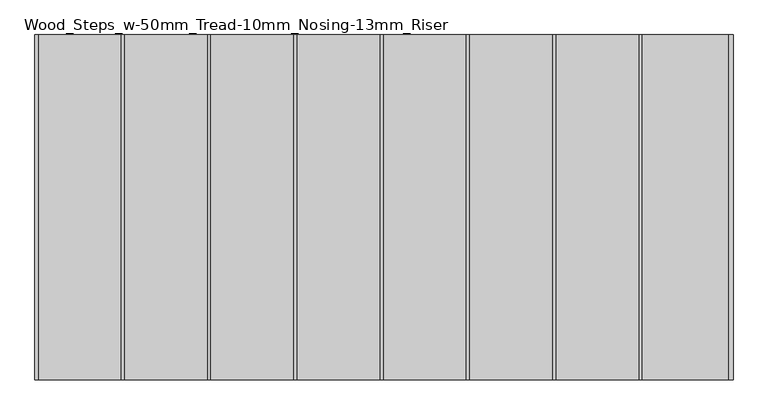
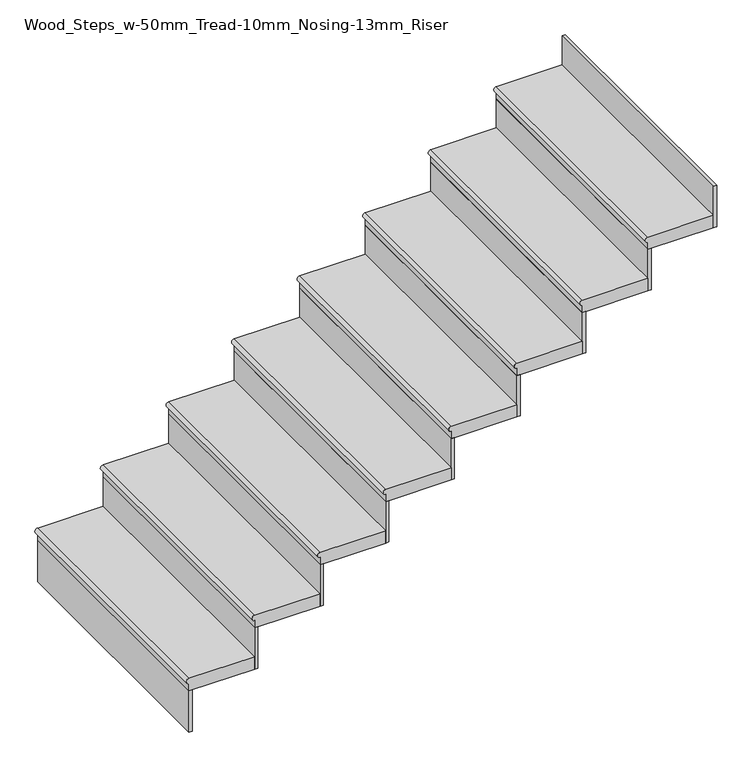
"""IFC4 building model written with IfcOpenShell, lengths in millimetres: stair flight geometry, Wood_Steps_w-50mm_Tread-10mm_Nosing-13mm_Riser."""

from ifc_helpers import new_model, si_unit, point, frame, frame_2d, origin, place, context, project, spatial, polyline, circle_curve, trimmed, segment, composite_curve, outline, extrude, source, transform, mapped, element, save


def wood_steps_w_50mm_tread_10mm_nosing_13mm_riser_24bd857b(model_context):
    return source(origin(), model_context, "Body", "SweptSolid", [
        extrude(outline(composite_curve([segment(polyline([(4466.6666667, -17065.9339353), (4466.6666667, -17315.9339353)]), True, "CONTINUOUS"), segment(trimmed(circle_curve(frame_2d((4456.6666667, -17315.9339353)), 10.0), [point((4466.6666667, -17315.9339353))], [point((4446.6666667, -17315.9339353))], False, "CARTESIAN"), True, "CONTINUOUS"), segment(polyline([(4446.6666667, -17315.9339353), (4416.6666667, -17315.9339353), (4416.6666667, -17065.9339353), (4466.6666667, -17065.9339353)]), True, "CONTINUOUS")], self_intersect=False)), frame((0.0, -1806.3199596, 0.0), z_axis=(0.0, 1.0, 0.0), x_axis=(0.0, 0.0, 1.0)), (0.0, 0.0, 1.0), 1000.0),
        extrude(outline(polyline([(-17303.4339353, -1806.3199596), (-17315.9339353, -1806.3199596), (-17315.9339353, -806.3199596), (-17303.4339353, -806.3199596), (-17303.4339353, -1806.3199596)])), frame((0.0, 0.0, 4250.0), z_axis=(0.0, 0.0, 1.0), x_axis=(1.0, 0.0, 0.0)), (0.0, 0.0, 1.0), 166.6666667),
        extrude(outline(polyline([(-17053.4339353, -1806.3199596), (-17065.9339353, -1806.3199596), (-17065.9339353, -806.3199596), (-17053.4339353, -806.3199596), (-17053.4339353, -1806.3199596)])), frame((0.0, 0.0, 4416.6666667), z_axis=(0.0, 0.0, 1.0), x_axis=(1.0, 0.0, 0.0)), (0.0, 0.0, 1.0), 166.6666667),
        extrude(outline(composite_curve([segment(polyline([(4633.3333333, -16815.9339353), (4633.3333333, -17065.9339353)]), True, "CONTINUOUS"), segment(trimmed(circle_curve(frame_2d((4623.3333333, -17065.9339353)), 10.0), [point((4633.3333333, -17065.9339353))], [point((4613.3333333, -17065.9339353))], False, "CARTESIAN"), True, "CONTINUOUS"), segment(polyline([(4613.3333333, -17065.9339353), (4583.3333333, -17065.9339353), (4583.3333333, -16815.9339353), (4633.3333333, -16815.9339353)]), True, "CONTINUOUS")], self_intersect=False)), frame((0.0, -1806.3199596, 0.0), z_axis=(0.0, 1.0, 0.0), x_axis=(0.0, 0.0, 1.0)), (0.0, 0.0, 1.0), 1000.0),
        extrude(outline(polyline([(-16803.4339353, -1806.3199596), (-16815.9339353, -1806.3199596), (-16815.9339353, -806.3199596), (-16803.4339353, -806.3199596), (-16803.4339353, -1806.3199596)])), frame((0.0, 0.0, 4583.3333333), z_axis=(0.0, 0.0, 1.0), x_axis=(1.0, 0.0, 0.0)), (0.0, 0.0, 1.0), 166.6666667),
        extrude(outline(composite_curve([segment(polyline([(4800.0, -16565.9339353), (4800.0, -16815.9339353)]), True, "CONTINUOUS"), segment(trimmed(circle_curve(frame_2d((4790.0, -16815.9339353)), 10.0), [point((4800.0, -16815.9339353))], [point((4780.0, -16815.9339353))], False, "CARTESIAN"), True, "CONTINUOUS"), segment(polyline([(4780.0, -16815.9339353), (4750.0, -16815.9339353), (4750.0, -16565.9339353), (4800.0, -16565.9339353)]), True, "CONTINUOUS")], self_intersect=False)), frame((0.0, -1806.3199596, 0.0), z_axis=(0.0, 1.0, 0.0), x_axis=(0.0, 0.0, 1.0)), (0.0, 0.0, 1.0), 1000.0),
        extrude(outline(polyline([(-16553.4339353, -1806.3199596), (-16565.9339353, -1806.3199596), (-16565.9339353, -806.3199596), (-16553.4339353, -806.3199596), (-16553.4339353, -1806.3199596)])), frame((0.0, 0.0, 4750.0), z_axis=(0.0, 0.0, 1.0), x_axis=(1.0, 0.0, 0.0)), (0.0, 0.0, 1.0), 166.6666667),
        extrude(outline(composite_curve([segment(polyline([(4966.6666667, -16315.9339353), (4966.6666667, -16565.9339353)]), True, "CONTINUOUS"), segment(trimmed(circle_curve(frame_2d((4956.6666667, -16565.9339353)), 10.0), [point((4966.6666667, -16565.9339353))], [point((4946.6666667, -16565.9339353))], False, "CARTESIAN"), True, "CONTINUOUS"), segment(polyline([(4946.6666667, -16565.9339353), (4916.6666667, -16565.9339353), (4916.6666667, -16315.9339353), (4966.6666667, -16315.9339353)]), True, "CONTINUOUS")], self_intersect=False)), frame((0.0, -1806.3199596, 0.0), z_axis=(0.0, 1.0, 0.0), x_axis=(0.0, 0.0, 1.0)), (0.0, 0.0, 1.0), 1000.0),
        extrude(outline(polyline([(-16303.4339353, -1806.3199596), (-16315.9339353, -1806.3199596), (-16315.9339353, -806.3199596), (-16303.4339353, -806.3199596), (-16303.4339353, -1806.3199596)])), frame((0.0, 0.0, 4916.6666667), z_axis=(0.0, 0.0, 1.0), x_axis=(1.0, 0.0, 0.0)), (0.0, 0.0, 1.0), 166.6666667),
        extrude(outline(composite_curve([segment(polyline([(5133.3333333, -16065.9339353), (5133.3333333, -16315.9339353)]), True, "CONTINUOUS"), segment(trimmed(circle_curve(frame_2d((5123.3333333, -16315.9339353)), 10.0), [point((5133.3333333, -16315.9339353))], [point((5113.3333333, -16315.9339353))], False, "CARTESIAN"), True, "CONTINUOUS"), segment(polyline([(5113.3333333, -16315.9339353), (5083.3333333, -16315.9339353), (5083.3333333, -16065.9339353), (5133.3333333, -16065.9339353)]), True, "CONTINUOUS")], self_intersect=False)), frame((0.0, -1806.3199596, 0.0), z_axis=(0.0, 1.0, 0.0), x_axis=(0.0, 0.0, 1.0)), (0.0, 0.0, 1.0), 1000.0),
        extrude(outline(polyline([(-16053.4339353, -1806.3199596), (-16065.9339353, -1806.3199596), (-16065.9339353, -806.3199596), (-16053.4339353, -806.3199596), (-16053.4339353, -1806.3199596)])), frame((0.0, 0.0, 5083.3333333), z_axis=(0.0, 0.0, 1.0), x_axis=(1.0, 0.0, 0.0)), (0.0, 0.0, 1.0), 166.6666667),
        extrude(outline(composite_curve([segment(polyline([(5300.0, -15815.9339353), (5300.0, -16065.9339353)]), True, "CONTINUOUS"), segment(trimmed(circle_curve(frame_2d((5290.0, -16065.9339353)), 10.0), [point((5300.0, -16065.9339353))], [point((5280.0, -16065.9339353))], False, "CARTESIAN"), True, "CONTINUOUS"), segment(polyline([(5280.0, -16065.9339353), (5250.0, -16065.9339353), (5250.0, -15815.9339353), (5300.0, -15815.9339353)]), True, "CONTINUOUS")], self_intersect=False)), frame((0.0, -1806.3199596, 0.0), z_axis=(0.0, 1.0, 0.0), x_axis=(0.0, 0.0, 1.0)), (0.0, 0.0, 1.0), 1000.0),
        extrude(outline(polyline([(-15803.4339353, -1806.3199596), (-15815.9339353, -1806.3199596), (-15815.9339353, -806.3199596), (-15803.4339353, -806.3199596), (-15803.4339353, -1806.3199596)])), frame((0.0, 0.0, 5250.0), z_axis=(0.0, 0.0, 1.0), x_axis=(1.0, 0.0, 0.0)), (0.0, 0.0, 1.0), 166.6666667),
        extrude(outline(composite_curve([segment(polyline([(5466.6666667, -15565.9339353), (5466.6666667, -15815.9339353)]), True, "CONTINUOUS"), segment(trimmed(circle_curve(frame_2d((5456.6666667, -15815.9339353)), 10.0), [point((5466.6666667, -15815.9339353))], [point((5446.6666667, -15815.9339353))], False, "CARTESIAN"), True, "CONTINUOUS"), segment(polyline([(5446.6666667, -15815.9339353), (5416.6666667, -15815.9339353), (5416.6666667, -15565.9339353), (5466.6666667, -15565.9339353)]), True, "CONTINUOUS")], self_intersect=False)), frame((0.0, -1806.3199596, 0.0), z_axis=(0.0, 1.0, 0.0), x_axis=(0.0, 0.0, 1.0)), (0.0, 0.0, 1.0), 1000.0),
        extrude(outline(polyline([(-15553.4339353, -1806.3199596), (-15565.9339353, -1806.3199596), (-15565.9339353, -806.3199596), (-15553.4339353, -806.3199596), (-15553.4339353, -1806.3199596)])), frame((0.0, 0.0, 5416.6666667), z_axis=(0.0, 0.0, 1.0), x_axis=(1.0, 0.0, 0.0)), (0.0, 0.0, 1.0), 166.6666667),
        extrude(outline(polyline([(-15303.4339353, -1806.3199596), (-15315.9339353, -1806.3199596), (-15315.9339353, -806.3199596), (-15303.4339353, -806.3199596), (-15303.4339353, -1806.3199596)])), frame((0.0, 0.0, 5583.3333333), z_axis=(0.0, 0.0, 1.0), x_axis=(1.0, 0.0, 0.0)), (0.0, 0.0, 1.0), 166.6666667),
        extrude(outline(composite_curve([segment(polyline([(5633.3333333, -15315.9339353), (5633.3333333, -15565.9339353)]), True, "CONTINUOUS"), segment(trimmed(circle_curve(frame_2d((5623.3333333, -15565.9339353)), 10.0), [point((5633.3333333, -15565.9339353))], [point((5613.3333333, -15565.9339353))], False, "CARTESIAN"), True, "CONTINUOUS"), segment(polyline([(5613.3333333, -15565.9339353), (5583.3333333, -15565.9339353), (5583.3333333, -15315.9339353), (5633.3333333, -15315.9339353)]), True, "CONTINUOUS")], self_intersect=False)), frame((0.0, -1806.3199596, 0.0), z_axis=(0.0, 1.0, 0.0), x_axis=(0.0, 0.0, 1.0)), (0.0, 0.0, 1.0), 1000.0),
    ])


if __name__ == "__main__":
    model = new_model("IFC4")
    model_context = context("Model", 3, world=origin())
    ifc_project = project(units=[si_unit("LENGTHUNIT", "METRE", prefix="MILLI")], contexts=[model_context])
    site = spatial("IfcSite", under=ifc_project)
    building = spatial("IfcBuilding", under=site)
    placement = place(None, origin())
    wood_steps_w_50mm_tread_10mm_nosing_13mm_riser_shape = wood_steps_w_50mm_tread_10mm_nosing_13mm_riser_24bd857b(model_context)
    element("IfcStairFlight", 1, ObjectType="Wood_Steps_w-50mm_Tread-10mm_Nosing-13mm_Riser", at=placement, inside=building, context=model_context, shape_type="MappedRepresentation", body=[
        mapped(wood_steps_w_50mm_tread_10mm_nosing_13mm_riser_shape, transform((0.0, 0.0, 0.0), x_axis=(1.0, 0.0, 0.0), y_axis=(0.0, 1.0, 0.0), z_axis=(0.0, 0.0, 1.0))),
    ])
    save(model, "model.ifc")
